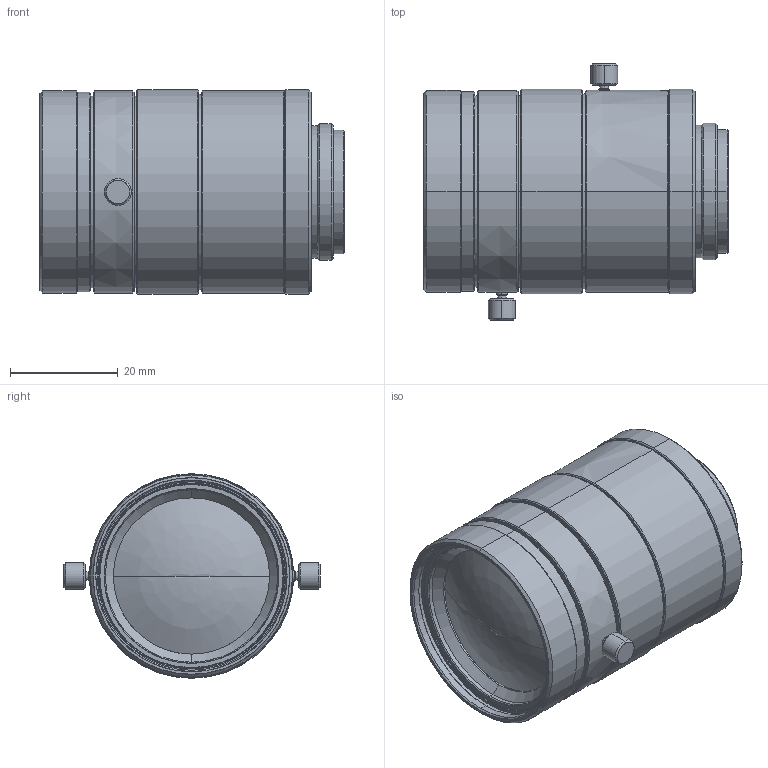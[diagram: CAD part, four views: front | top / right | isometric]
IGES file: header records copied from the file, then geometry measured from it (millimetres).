
Start section: SolidWorks IGES file using analytic representation for surfaces
Bounding box: 56.52 x 47.6 x 38 mm (x, y, z)
Surface area: 10082.2 mm2 (no closed solid volume)
Topology: 0 solids, 0 shells, 130 faces, 2524 edges, 2523 vertices
Faces by surface type: revolution 110, bspline 20
